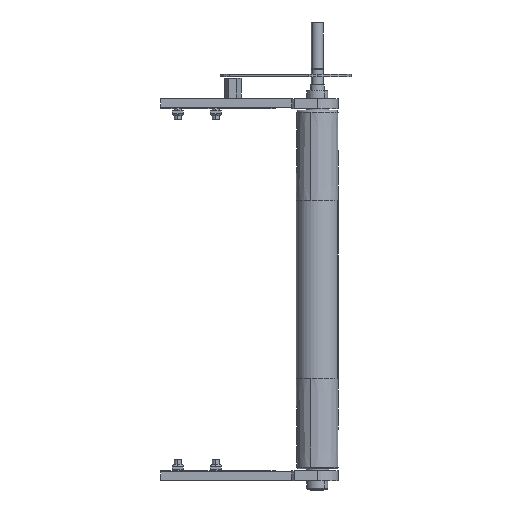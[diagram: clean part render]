
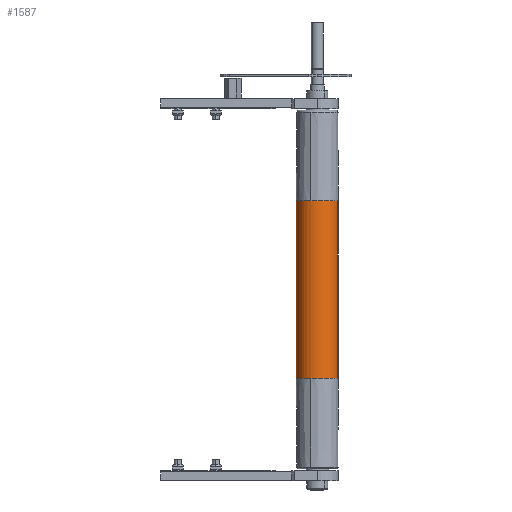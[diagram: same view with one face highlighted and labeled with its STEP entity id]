
A CAD part, front view. The second image highlights one B-rep face of the part: STEP entity #1587.
In plain terms, the highlighted cylindrical face has radius 25 mm (diameter 50 mm), a partial arc.
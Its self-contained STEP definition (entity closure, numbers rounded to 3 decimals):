
#202 = FACE_OUTER_BOUND ( 'NONE', #1236, .T. ) ;
#207 = CYLINDRICAL_SURFACE ( 'NONE', #13499, 25. ) ;
#815 = LINE ( 'NONE', #17795, #821 ) ;
#821 = VECTOR ( 'NONE', #17793, 1000. ) ;
#1025 = AXIS2_PLACEMENT_3D ( 'NONE', #5767, #5768, #5769 ) ;
#1101 = AXIS2_PLACEMENT_3D ( 'NONE', #8557, #8558, #8559 ) ;
#1150 = AXIS2_PLACEMENT_3D ( 'NONE', #6899, #6900, #6901 ) ;
#1236 = EDGE_LOOP ( 'NONE', ( #6334, #6335, #6336, #6337, #6338, #6339 ) ) ;
#1587 = ADVANCED_FACE ( 'NONE', ( #202 ), #207, .T. ) ;
#3024 = VERTEX_POINT ( 'NONE', #11182 ) ;
#3031 = VERTEX_POINT ( 'NONE', #11187 ) ;
#5171 = CIRCLE ( 'NONE', #1025, 25. ) ;
#5767 = CARTESIAN_POINT ( 'NONE',  ( 185., 0., 105. ) ) ;
#5768 = DIRECTION ( 'NONE',  ( 0., 0., -1. ) ) ;
#5769 = DIRECTION ( 'NONE',  ( 0.306, 0.952, 0. ) ) ;
#5784 = CARTESIAN_POINT ( 'NONE',  ( 208.803, -7.644, -105. ) ) ;
#5788 = CARTESIAN_POINT ( 'NONE',  ( 177.356, -23.803, -105. ) ) ;
#5800 = CARTESIAN_POINT ( 'NONE',  ( 161.197, 7.644, 105. ) ) ;
#5801 = CARTESIAN_POINT ( 'NONE',  ( 161.197, 7.644, -105. ) ) ;
#6334 = ORIENTED_EDGE ( 'NONE', *, *, #14776, .T. ) ;
#6335 = ORIENTED_EDGE ( 'NONE', *, *, #14640, .T. ) ;
#6336 = ORIENTED_EDGE ( 'NONE', *, *, #14661, .T. ) ;
#6337 = ORIENTED_EDGE ( 'NONE', *, *, #10558, .F. ) ;
#6338 = ORIENTED_EDGE ( 'NONE', *, *, #14541, .F. ) ;
#6339 = ORIENTED_EDGE ( 'NONE', *, *, #10497, .F. ) ;
#6899 = CARTESIAN_POINT ( 'NONE',  ( 185., 0., -105. ) ) ;
#6900 = DIRECTION ( 'NONE',  ( 0., 0., -1. ) ) ;
#6901 = DIRECTION ( 'NONE',  ( 0.306, 0.952, 0. ) ) ;
#8557 = CARTESIAN_POINT ( 'NONE',  ( 185., 0., 105. ) ) ;
#8558 = DIRECTION ( 'NONE',  ( 0., 0., -1. ) ) ;
#8559 = DIRECTION ( 'NONE',  ( 0.306, 0.952, 0. ) ) ;
#8631 = CARTESIAN_POINT ( 'NONE',  ( 161.197, 7.644, 210. ) ) ;
#8632 = DIRECTION ( 'NONE',  ( 0., 0., -1. ) ) ;
#9222 = CARTESIAN_POINT ( 'NONE',  ( 185., 0., -105. ) ) ;
#9223 = DIRECTION ( 'NONE',  ( 0., 0., -1. ) ) ;
#9224 = DIRECTION ( 'NONE',  ( 0.306, 0.952, 0. ) ) ;
#9565 = DIRECTION ( 'NONE',  ( 0.952, -0.306, 0. ) ) ;
#9569 = DIRECTION ( 'NONE',  ( 0., 0., -1. ) ) ;
#9571 = CARTESIAN_POINT ( 'NONE',  ( 185., 0., 210. ) ) ;
#10497 = EDGE_CURVE ( 'NONE', #3024, #14836, #815, .T. ) ;
#10558 = EDGE_CURVE ( 'NONE', #14840, #14853, #18375, .T. ) ;
#11182 = CARTESIAN_POINT ( 'NONE',  ( 208.803, -7.644, 105. ) ) ;
#11187 = CARTESIAN_POINT ( 'NONE',  ( 177.356, -23.803, 105. ) ) ;
#12996 = AXIS2_PLACEMENT_3D ( 'NONE', #9222, #9223, #9224 ) ;
#13499 = AXIS2_PLACEMENT_3D ( 'NONE', #9571, #9569, #9565 ) ;
#14541 = EDGE_CURVE ( 'NONE', #14836, #14840, #18702, .T. ) ;
#14640 = EDGE_CURVE ( 'NONE', #3031, #14852, #18847, .T. ) ;
#14661 = EDGE_CURVE ( 'NONE', #14852, #14853, #18876, .T. ) ;
#14776 = EDGE_CURVE ( 'NONE', #3024, #3031, #5171, .T. ) ;
#14836 = VERTEX_POINT ( 'NONE', #5784 ) ;
#14840 = VERTEX_POINT ( 'NONE', #5788 ) ;
#14852 = VERTEX_POINT ( 'NONE', #5800 ) ;
#14853 = VERTEX_POINT ( 'NONE', #5801 ) ;
#17793 = DIRECTION ( 'NONE',  ( 0., 0., -1. ) ) ;
#17795 = CARTESIAN_POINT ( 'NONE',  ( 208.803, -7.644, 210. ) ) ;
#18375 = CIRCLE ( 'NONE', #12996, 25. ) ;
#18702 = CIRCLE ( 'NONE', #1150, 25. ) ;
#18847 = CIRCLE ( 'NONE', #1101, 25. ) ;
#18876 = LINE ( 'NONE', #8631, #18879 ) ;
#18879 = VECTOR ( 'NONE', #8632, 1000. ) ;
